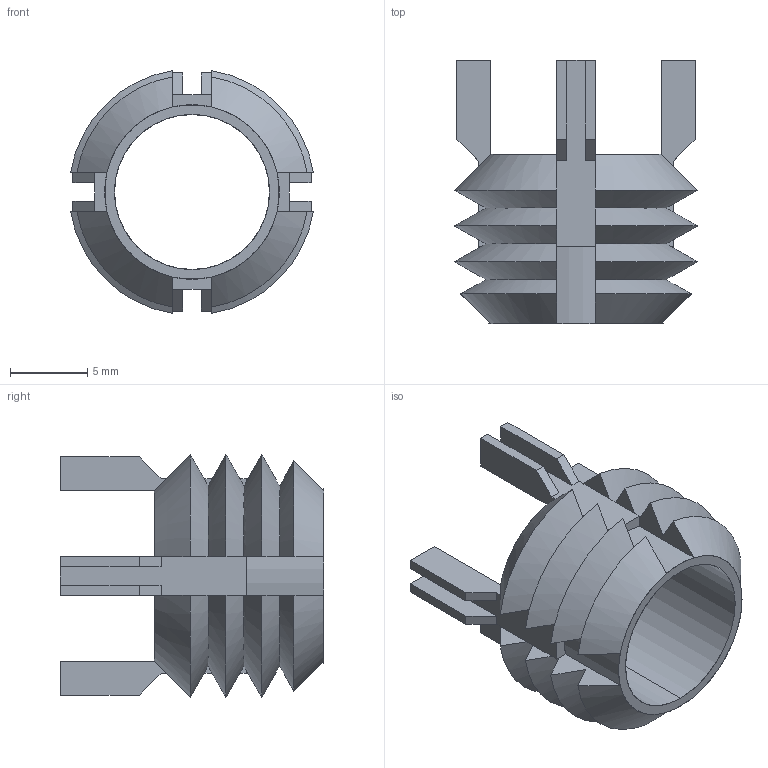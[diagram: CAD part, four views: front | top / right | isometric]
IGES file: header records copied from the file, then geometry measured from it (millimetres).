
Start section: SolidWorks IGES file using analytic representation for surfaces
Global section: file name: C:\Users\IanO\Desktop\TR1530_v2\TR1530_v2_20230501_IGES\Default.igs; native system: SolidWorks 2019; preprocessor: SolidWorks 2019; author: IanO; date: 230502.140317; units: millimetre
Bounding box: 15.68 x 17 x 15.68 mm (x, y, z)
Surface area: 1525.4 mm2 (no closed solid volume)
Topology: 0 solids, 0 shells, 128 faces, 768 edges, 768 vertices
Faces by surface type: bspline 90, revolution 38
